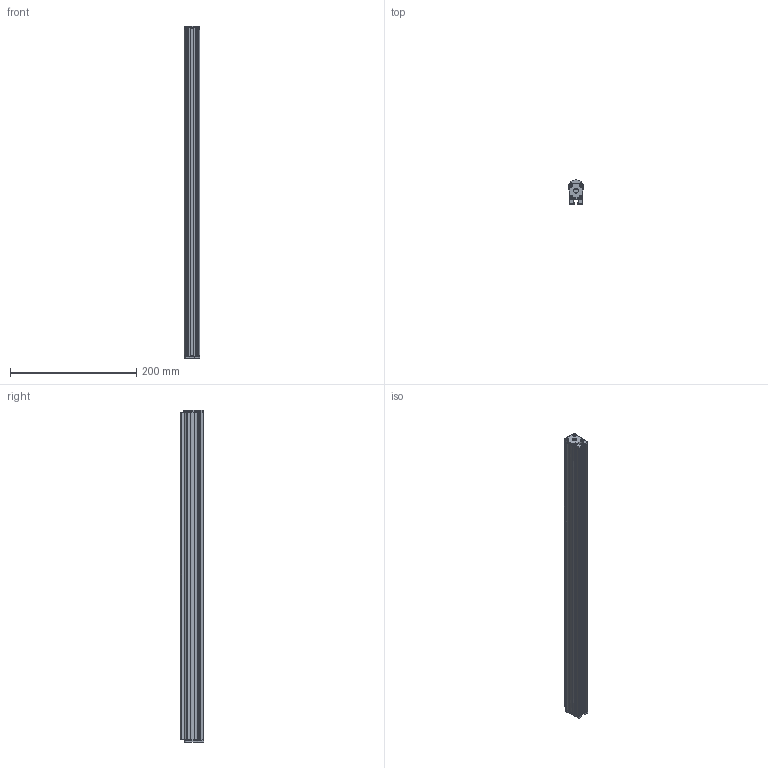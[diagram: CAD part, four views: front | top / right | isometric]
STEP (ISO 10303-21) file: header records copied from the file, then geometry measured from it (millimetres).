
FILE_DESCRIPTION(('STEP AP214'),'1');
FILE_NAME('lin+op 497.stp','2021-02-15T14:46:13',('Blanc'),('Phlox'),'Spatial InterOp 3D',' ',' ');
FILE_SCHEMA(('AUTOMOTIVE_DESIGN { 1 0 10303 214 1 1 1 1 }'));
Length unit declared in the file: inch
Products named in the file (1): Pièce_83634808
Bounding box: 24.54 x 37.28 x 525.49 mm (x, y, z)
Volume: 192262.5 mm3; surface area: 158655.1 mm2
Topology: 6 solids, 6 shells, 380 faces, 1090 edges, 718 vertices
Faces by surface type: cylinder 211, plane 103, bspline 36, cone 16, extrusion 14
Entity records: 25924 total; most frequent: CARTESIAN_POINT 7938, ORIENTED_EDGE 2180, DIRECTION 2086, STYLED_ITEM 1345, PRESENTATION_STYLE_ASSIGNMENT 1345, COLOUR_RGB 1345, EDGE_CURVE 1090, CURVE_STYLE 959
